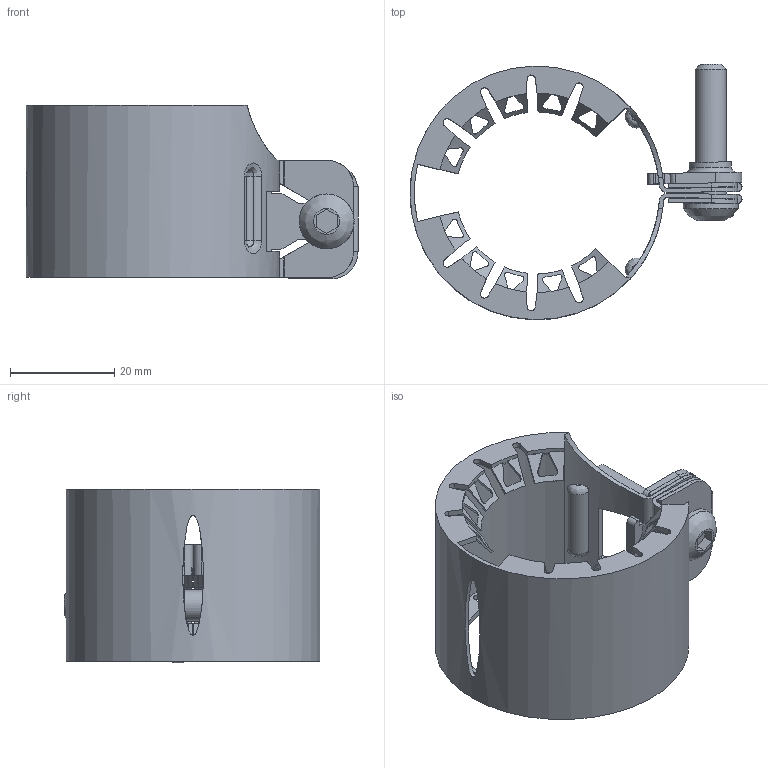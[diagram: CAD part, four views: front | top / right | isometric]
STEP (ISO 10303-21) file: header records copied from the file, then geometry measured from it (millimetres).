
FILE_DESCRIPTION(/* description */ (''),/* implementation_level */ '2;1');
FILE_NAME(/* name */ 'H:\Geberit-Teile\Export\Haltekralle\stp\390008.stp',/* time_stamp */ '2016-03-31T11:28:32+02:00',/* author */ ('seihe2'),/* organization */ (''),/* preprocessor_version */ 'ST-DEVELOPER v15.2',/* originating_system */ 'Autodesk Inventor 2014',/* authorisation */ '');
FILE_SCHEMA (('AUTOMOTIVE_DESIGN { 1 0 10303 214 3 1 1 }'));
Length unit declared in the file: millimetre
Products named in the file (1): 390008
Bounding box: 63.6 x 48.99 x 33.25 mm (x, y, z)
Volume: 7454.4 mm3; surface area: 14089 mm2
Topology: 1 solids, 1 shells, 339 faces, 988 edges, 641 vertices
Faces by surface type: plane 175, cylinder 118, cone 31, bspline 14, torus 1
Full cylindrical faces by diameter (mm): 6 x1, 8 x1, 10.5 x1
Entity records: 12577 total; most frequent: CARTESIAN_POINT 3460, ORIENTED_EDGE 1956, DIRECTION 1752, EDGE_CURVE 978, VERTEX_POINT 637, AXIS2_PLACEMENT_3D 610, LINE 532, VECTOR 532
